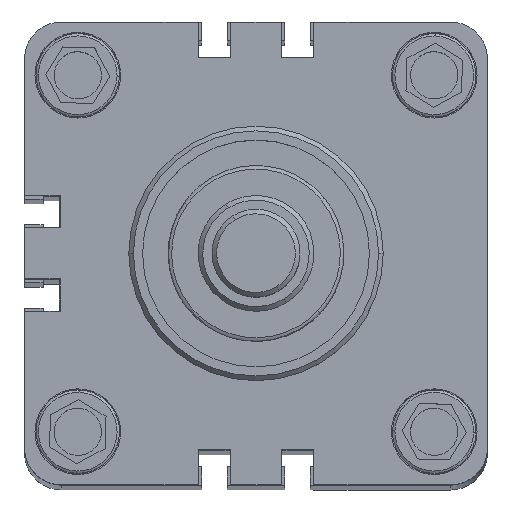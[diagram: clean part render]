
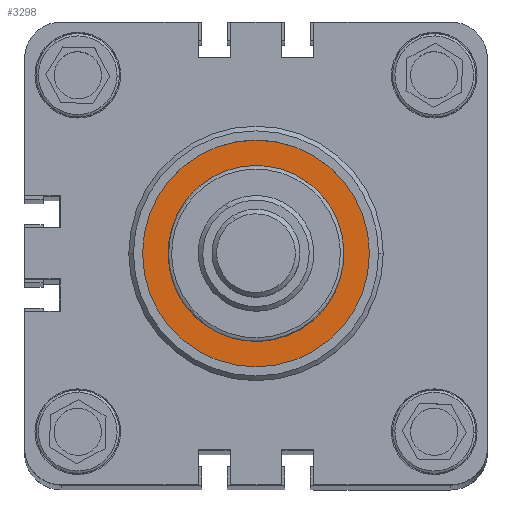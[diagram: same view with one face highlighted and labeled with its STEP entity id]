
A CAD part, top view. The second image highlights one B-rep face of the part: STEP entity #3298.
In plain terms, the highlighted planar face has unit normal (0, 0, 1).
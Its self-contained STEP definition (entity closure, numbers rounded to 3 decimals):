
#1497 = DIRECTION ( 'NONE',  ( -1., 0., 0. ) ) ;
#1734 = ORIENTED_EDGE ( 'NONE', *, *, #4418, .T. ) ;
#2711 = VERTEX_POINT ( 'NONE', #24884 ) ;
#2825 = ORIENTED_EDGE ( 'NONE', *, *, #25033, .T. ) ;
#3298 = ADVANCED_FACE ( 'NONE', ( #7985 ), #5487, .F. ) ;
#4418 = EDGE_CURVE ( 'NONE', #18332, #2711, #23316, .T. ) ;
#5476 = CARTESIAN_POINT ( 'NONE',  ( 0., 0., 623.5 ) ) ;
#5487 = PLANE ( 'NONE',  #10884 ) ;
#7985 = FACE_OUTER_BOUND ( 'NONE', #18177, .T. ) ;
#10884 = AXIS2_PLACEMENT_3D ( 'NONE', #27431, #23323, #1497 ) ;
#11080 = AXIS2_PLACEMENT_3D ( 'NONE', #24561, #18184, #18382 ) ;
#14357 = DIRECTION ( 'NONE',  ( -1., 0., 0. ) ) ;
#15361 = CARTESIAN_POINT ( 'NONE',  ( -24.5, 0., 623.5 ) ) ;
#18177 = EDGE_LOOP ( 'NONE', ( #2825, #1734 ) ) ;
#18184 = DIRECTION ( 'NONE',  ( 0., 0., 1. ) ) ;
#18332 = VERTEX_POINT ( 'NONE', #15361 ) ;
#18382 = DIRECTION ( 'NONE',  ( -1., 0., 0. ) ) ;
#19973 = AXIS2_PLACEMENT_3D ( 'NONE', #5476, #23122, #14357 ) ;
#23122 = DIRECTION ( 'NONE',  ( 0., 0., 1. ) ) ;
#23316 = CIRCLE ( 'NONE', #11080, 24.5 ) ;
#23323 = DIRECTION ( 'NONE',  ( 0., 0., -1. ) ) ;
#24561 = CARTESIAN_POINT ( 'NONE',  ( 0., 0., 623.5 ) ) ;
#24884 = CARTESIAN_POINT ( 'NONE',  ( 24.5, 0., 623.5 ) ) ;
#25033 = EDGE_CURVE ( 'NONE', #2711, #18332, #26318, .T. ) ;
#26318 = CIRCLE ( 'NONE', #19973, 24.5 ) ;
#27431 = CARTESIAN_POINT ( 'NONE',  ( 0., 0., 623.5 ) ) ;
